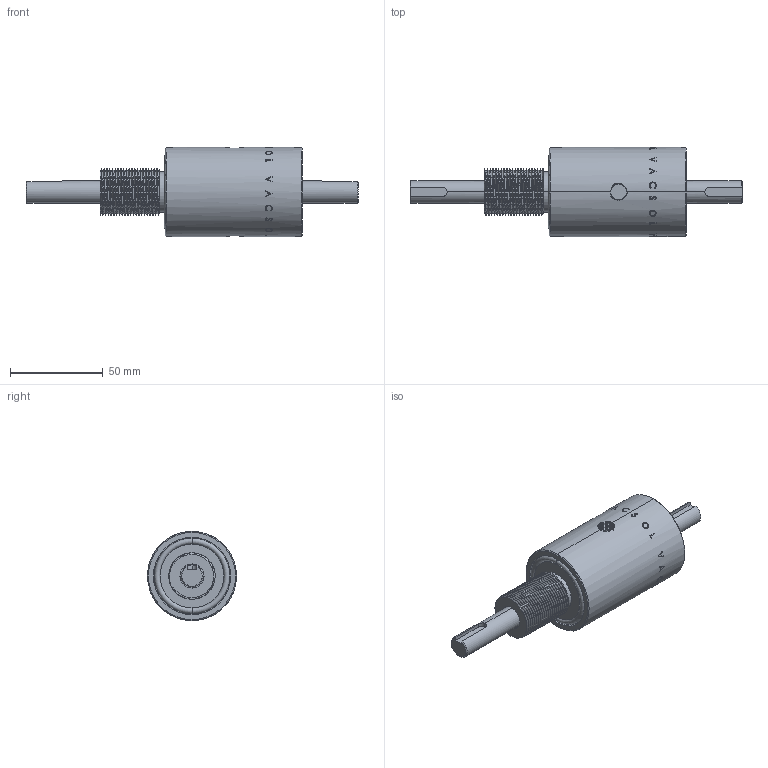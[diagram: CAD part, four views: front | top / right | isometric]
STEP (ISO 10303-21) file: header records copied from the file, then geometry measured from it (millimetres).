
FILE_DESCRIPTION (( 'STEP AP203' ), '1' );
FILE_NAME ('p11121.STEP', '2010-12-04T03:04:32', ( 'user' ), ( '' ), 'SwSTEP 2.0', 'SolidWorks 2007', '' );
FILE_SCHEMA (( 'CONFIG_CONTROL_DESIGN' ));
Length unit declared in the file: millimetre
Products named in the file (1): p11121
Bounding box: 179 x 48 x 48 mm (x, y, z)
Volume: 155983.8 mm3; surface area: 24444 mm2
Topology: 2 solids, 2 shells, 408 faces, 1108 edges, 734 vertices
Faces by surface type: cylinder 191, bspline 183, plane 23, cone 7, torus 4
Entity records: 30877 total; most frequent: CARTESIAN_POINT 22956, ORIENTED_EDGE 2216, EDGE_CURVE 1108, DIRECTION 782, VERTEX_POINT 734, B_SPLINE_CURVE_WITH_KNOTS 562, EDGE_LOOP 440, FACE_OUTER_BOUND 408
